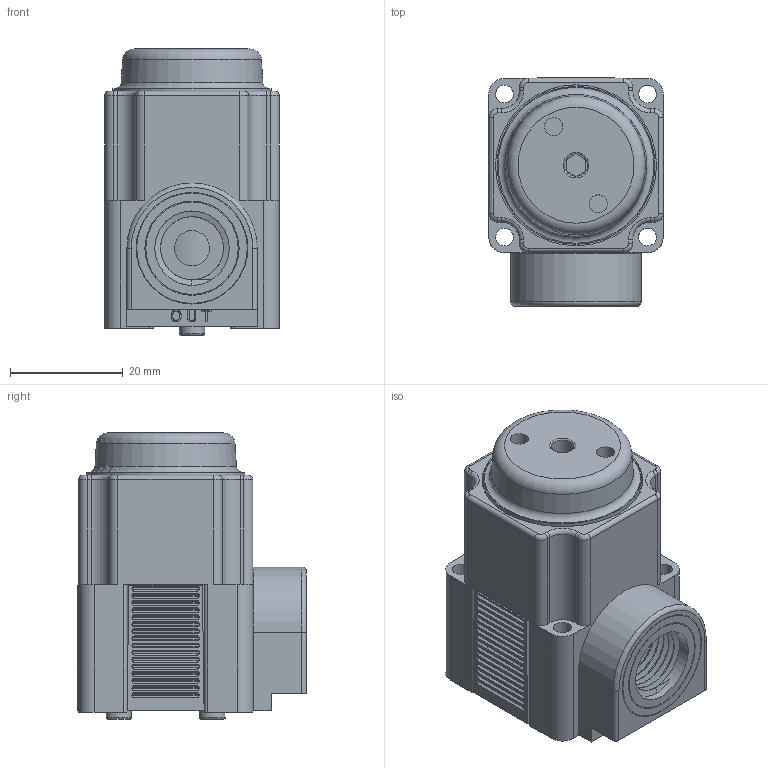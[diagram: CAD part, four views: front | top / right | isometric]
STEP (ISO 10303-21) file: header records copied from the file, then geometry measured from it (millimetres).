
FILE_DESCRIPTION(/* description */ (''),/* implementation_level */ '2;1');
FILE_NAME(/* name */ 'K:\Normteile INVENTOR\Air-Logic\Regulators\PR6000\PR 6___ 2 1''4-18 NPT Threads Out.igs.ipt.stp',/* time_stamp */ '2020-05-27T10:52:42+02:00',/* author */ ('Paul'),/* organization */ (''),/* preprocessor_version */ 'ST-DEVELOPER v18',/* originating_system */ 'Autodesk Inventor 2020',/* authorisation */ '');
FILE_SCHEMA (('AUTOMOTIVE_DESIGN { 1 0 10303 214 3 1 1 }'));
Length unit declared in the file: inch
Products named in the file (1): PR 6___ 2 1'4-18 NPT Threads Out.igs
Bounding box: 31.19 x 40.56 x 50.78 mm (x, y, z)
Volume: 42270.8 mm3; surface area: 14445.1 mm2
Topology: 1 solids, 1 shells, 708 faces, 1838 edges, 1211 vertices
Faces by surface type: plane 349, cylinder 284, bspline 44, torus 28, cone 3
Full cylindrical faces by diameter (mm): 1.194 x1, 2.032 x1, 3.124 x2, 3.175 x8, 3.226 x2, 4.013 x1, 4.521 x2, 6.223 x1, 6.248 x1, 8.382 x2, 11.163 x6, 13.208 x6, 16.408 x1, 16.717 x1, 19.612 x1, 19.825 x1, 25.781 x1, 28.047 x1, 28.575 x1
Entity records: 27480 total; most frequent: CARTESIAN_POINT 9104, DIRECTION 3754, ORIENTED_EDGE 3676, EDGE_CURVE 1838, AXIS2_PLACEMENT_3D 1465, VERTEX_POINT 1211, LINE 824, VECTOR 824
